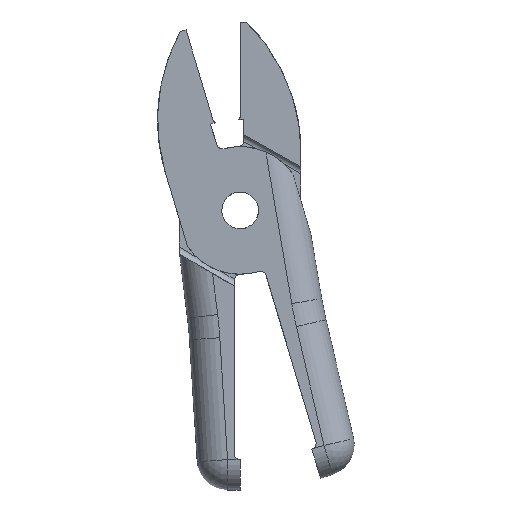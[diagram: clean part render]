
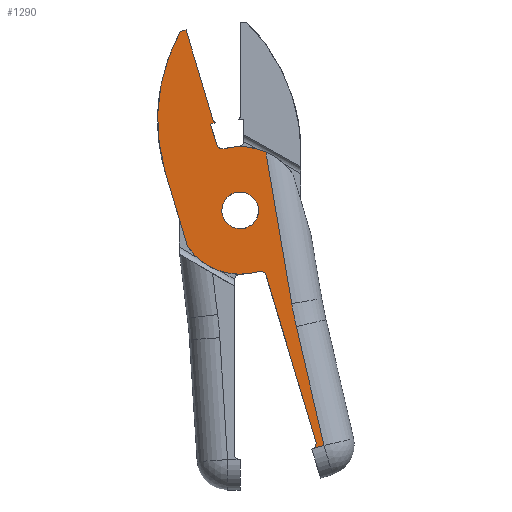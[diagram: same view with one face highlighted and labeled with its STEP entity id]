
A CAD part, front view. The second image highlights one B-rep face of the part: STEP entity #1290.
In plain terms, the highlighted planar face has unit normal (0, -1, 0).
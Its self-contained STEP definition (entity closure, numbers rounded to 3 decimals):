
#20=FACE_BOUND('',#229,.T.);
#36=CIRCLE('',#1369,30.);
#37=CIRCLE('',#1374,1.);
#38=CIRCLE('',#1376,1.);
#40=CIRCLE('',#1382,1.);
#47=CIRCLE('',#1395,10.5);
#48=CIRCLE('',#1396,65.);
#49=CIRCLE('',#1397,10.5);
#50=CIRCLE('',#1398,3.025);
#97=PLANE('',#1394);
#151=FACE_OUTER_BOUND('',#228,.T.);
#228=EDGE_LOOP('',(#955,#956,#957,#958,#959,#960,#961,#962,#963,#964,#965,
#966,#967,#968,#969,#970,#971));
#229=EDGE_LOOP('',(#972));
#293=ELLIPSE('',#1360,1.743,1.);
#325=LINE('',#1999,#429);
#326=LINE('',#2004,#430);
#329=LINE('',#2009,#433);
#336=LINE('',#2029,#440);
#349=LINE('',#2096,#453);
#350=LINE('',#2101,#454);
#351=LINE('',#2103,#455);
#352=LINE('',#2107,#456);
#353=LINE('',#2109,#457);
#429=VECTOR('',#1551,10.);
#430=VECTOR('',#1558,10.);
#433=VECTOR('',#1563,10.);
#440=VECTOR('',#1580,10.);
#453=VECTOR('',#1633,10.);
#454=VECTOR('',#1642,10.);
#455=VECTOR('',#1643,10.);
#456=VECTOR('',#1646,10.);
#457=VECTOR('',#1649,10.);
#553=VERTEX_POINT('',#1987);
#554=VERTEX_POINT('',#1989);
#557=VERTEX_POINT('',#1997);
#558=VERTEX_POINT('',#2003);
#559=VERTEX_POINT('',#2007);
#561=VERTEX_POINT('',#2013);
#567=VERTEX_POINT('',#2027);
#569=VERTEX_POINT('',#2035);
#570=VERTEX_POINT('',#2037);
#572=VERTEX_POINT('',#2048);
#573=VERTEX_POINT('',#2050);
#577=VERTEX_POINT('',#2075);
#578=VERTEX_POINT('',#2076);
#584=VERTEX_POINT('',#2094);
#585=VERTEX_POINT('',#2102);
#586=VERTEX_POINT('',#2104);
#587=VERTEX_POINT('',#2106);
#588=VERTEX_POINT('',#2110);
#684=EDGE_CURVE('',#553,#554,#293,.T.);
#689=EDGE_CURVE('',#553,#557,#325,.T.);
#691=EDGE_CURVE('',#554,#558,#326,.T.);
#694=EDGE_CURVE('',#557,#559,#329,.T.);
#697=EDGE_CURVE('',#559,#561,#36,.T.);
#704=EDGE_CURVE('',#561,#567,#336,.T.);
#708=EDGE_CURVE('',#569,#570,#37,.T.);
#712=EDGE_CURVE('',#572,#573,#38,.T.);
#720=EDGE_CURVE('',#577,#578,#40,.F.);
#729=EDGE_CURVE('',#584,#578,#349,.T.);
#731=EDGE_CURVE('',#567,#570,#47,.T.);
#732=EDGE_CURVE('',#569,#577,#350,.T.);
#733=EDGE_CURVE('',#585,#584,#351,.T.);
#734=EDGE_CURVE('',#586,#585,#48,.T.);
#735=EDGE_CURVE('',#587,#586,#352,.T.);
#736=EDGE_CURVE('',#587,#573,#49,.T.);
#737=EDGE_CURVE('',#572,#558,#353,.T.);
#738=EDGE_CURVE('',#588,#588,#50,.T.);
#955=ORIENTED_EDGE('',*,*,#697,.T.);
#956=ORIENTED_EDGE('',*,*,#704,.T.);
#957=ORIENTED_EDGE('',*,*,#731,.T.);
#958=ORIENTED_EDGE('',*,*,#708,.F.);
#959=ORIENTED_EDGE('',*,*,#732,.T.);
#960=ORIENTED_EDGE('',*,*,#720,.T.);
#961=ORIENTED_EDGE('',*,*,#729,.F.);
#962=ORIENTED_EDGE('',*,*,#733,.F.);
#963=ORIENTED_EDGE('',*,*,#734,.F.);
#964=ORIENTED_EDGE('',*,*,#735,.F.);
#965=ORIENTED_EDGE('',*,*,#736,.T.);
#966=ORIENTED_EDGE('',*,*,#712,.F.);
#967=ORIENTED_EDGE('',*,*,#737,.T.);
#968=ORIENTED_EDGE('',*,*,#691,.F.);
#969=ORIENTED_EDGE('',*,*,#684,.F.);
#970=ORIENTED_EDGE('',*,*,#689,.T.);
#971=ORIENTED_EDGE('',*,*,#694,.T.);
#972=ORIENTED_EDGE('',*,*,#738,.T.);
#1290=ADVANCED_FACE('',(#151,#20),#97,.T.);
#1360=AXIS2_PLACEMENT_3D('',#1990,#1542,#1543);
#1369=AXIS2_PLACEMENT_3D('',#2015,#1569,#1570);
#1374=AXIS2_PLACEMENT_3D('',#2038,#1588,#1589);
#1376=AXIS2_PLACEMENT_3D('',#2051,#1594,#1595);
#1382=AXIS2_PLACEMENT_3D('',#2077,#1610,#1611);
#1394=AXIS2_PLACEMENT_3D('',#2099,#1638,#1639);
#1395=AXIS2_PLACEMENT_3D('',#2100,#1640,#1641);
#1396=AXIS2_PLACEMENT_3D('',#2105,#1644,#1645);
#1397=AXIS2_PLACEMENT_3D('',#2108,#1647,#1648);
#1398=AXIS2_PLACEMENT_3D('',#2111,#1650,#1651);
#1542=DIRECTION('center_axis',(0.,-1.,0.));
#1543=DIRECTION('ref_axis',(-0.958,0.,-0.287));
#1551=DIRECTION('',(-0.287,0.,0.958));
#1558=DIRECTION('',(-0.958,0.,-0.287));
#1563=DIRECTION('',(-0.958,0.,-0.287));
#1569=DIRECTION('center_axis',(0.,-1.,0.));
#1570=DIRECTION('ref_axis',(0.876,0.,-0.483));
#1580=DIRECTION('',(0.287,0.,-0.958));
#1588=DIRECTION('center_axis',(0.,-1.,0.));
#1589=DIRECTION('ref_axis',(0.474,0.,0.88));
#1594=DIRECTION('center_axis',(0.,-1.,0.));
#1595=DIRECTION('ref_axis',(-0.489,0.,-0.872));
#1610=DIRECTION('center_axis',(0.,-1.,0.));
#1611=DIRECTION('ref_axis',(0.88,0.,-0.474));
#1633=DIRECTION('',(-0.958,0.,-0.287));
#1638=DIRECTION('center_axis',(0.,-1.,0.));
#1639=DIRECTION('ref_axis',(-0.287,0.,0.958));
#1640=DIRECTION('center_axis',(0.,-1.,0.));
#1641=DIRECTION('ref_axis',(0.825,0.,0.566));
#1642=DIRECTION('',(0.287,0.,-0.958));
#1643=DIRECTION('',(0.226,0.,-0.974));
#1644=DIRECTION('center_axis',(0.,-1.,0.));
#1645=DIRECTION('ref_axis',(-0.98,0.,-0.197));
#1646=DIRECTION('',(0.168,0.,-0.986));
#1647=DIRECTION('center_axis',(0.,-1.,0.));
#1648=DIRECTION('ref_axis',(0.825,0.,0.566));
#1649=DIRECTION('',(-0.287,0.,0.958));
#1650=DIRECTION('center_axis',(0.,1.,0.));
#1651=DIRECTION('ref_axis',(0.958,0.,0.287));
#1987=CARTESIAN_POINT('',(-4.454,0.,14.846));
#1989=CARTESIAN_POINT('',(-4.087,0.,14.434));
#1990=CARTESIAN_POINT('Origin',(-2.784,0.,15.347));
#1997=CARTESIAN_POINT('',(-8.908,0.,29.692));
#1999=CARTESIAN_POINT('',(-2.155,0.,7.184));
#2003=CARTESIAN_POINT('',(-4.885,0.,14.195));
#2004=CARTESIAN_POINT('',(-4.598,0.,14.281));
#2007=CARTESIAN_POINT('',(-9.866,0.,29.405));
#2009=CARTESIAN_POINT('',(-13.697,0.,28.256));
#2013=CARTESIAN_POINT('',(-12.33,0.,6.298));
#2015=CARTESIAN_POINT('Origin',(16.405,0.,14.919));
#2027=CARTESIAN_POINT('',(-8.658,0.,-5.94));
#2029=CARTESIAN_POINT('',(3.64,0.,-46.933));
#2035=CARTESIAN_POINT('',(4.262,0.,-10.728));
#2037=CARTESIAN_POINT('',(3.017,0.,-10.057));
#2038=CARTESIAN_POINT('Origin',(3.305,0.,-11.015));
#2048=CARTESIAN_POINT('',(-3.877,0.,10.836));
#2050=CARTESIAN_POINT('',(-2.666,0.,10.156));
#2051=CARTESIAN_POINT('Origin',(-2.92,0.,11.123));
#2075=CARTESIAN_POINT('',(12.452,0.,-38.026));
#2076=CARTESIAN_POINT('',(11.782,0.,-39.271));
#2077=CARTESIAN_POINT('Origin',(11.494,0.,-38.313));
#2094=CARTESIAN_POINT('',(13.784,0.,-38.67));
#2096=CARTESIAN_POINT('',(12.74,0.,-38.983));
#2099=CARTESIAN_POINT('Origin',(0.,0.,0.));
#2100=CARTESIAN_POINT('Origin',(0.,0.,0.));
#2101=CARTESIAN_POINT('',(2.46,0.,-4.718));
#2102=CARTESIAN_POINT('',(9.24,0.,-19.105));
#2103=CARTESIAN_POINT('',(9.701,0.,-21.092));
#2104=CARTESIAN_POINT('',(8.482,0.,-15.338));
#2105=CARTESIAN_POINT('Origin',(72.555,0.,-4.401));
#2106=CARTESIAN_POINT('',(4.223,0.,9.614));
#2107=CARTESIAN_POINT('',(7.239,0.,-8.057));
#2108=CARTESIAN_POINT('Origin',(0.,0.,0.));
#2109=CARTESIAN_POINT('',(-2.081,0.,4.848));
#2110=CARTESIAN_POINT('',(-2.897,0.,-0.869));
#2111=CARTESIAN_POINT('Origin',(0.,0.,0.));
